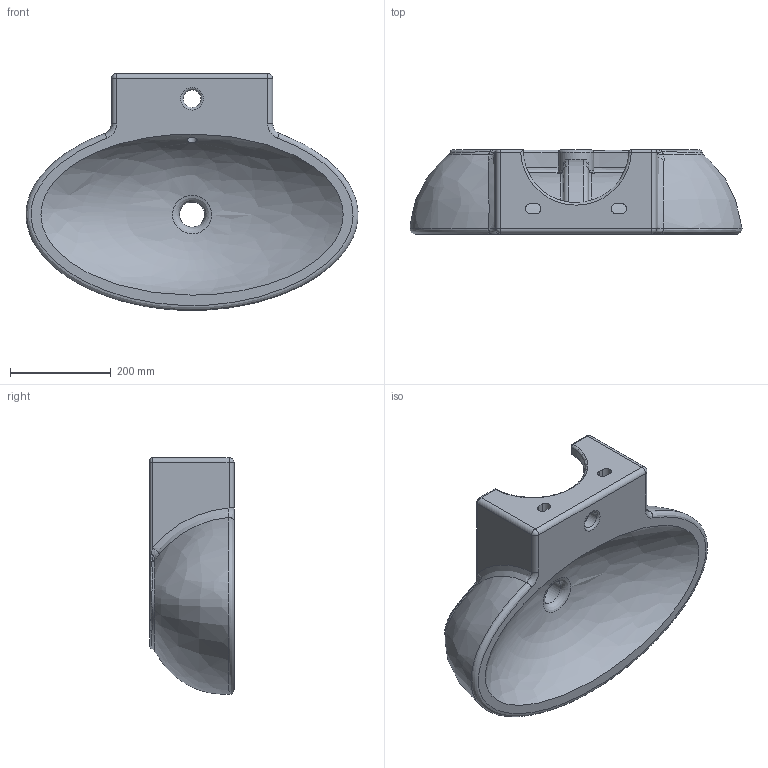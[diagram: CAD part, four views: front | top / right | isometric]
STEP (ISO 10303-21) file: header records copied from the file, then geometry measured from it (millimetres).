
FILE_DESCRIPTION( ( 'Unknown' ), '1' );
FILE_NAME( 'C:/Documents and Settings/s.pallini/Desktop/Scarabeo 17-6/Planet ovale grande sospeso.stp', 'Unknown', ( 'Unknown' ), ( 'Unknown' ), 'PSStep 11.0', 'Unknown', ' ' );
FILE_SCHEMA( ( 'AUTOMOTIVE_DESIGN { 1 0 10303 214 1 1 1 1 }' ) );
Length unit declared in the file: millimetre
Products named in the file (1): 1
Bounding box: 659.24 x 167 x 470.33 mm (x, y, z)
Volume: 16362340.4 mm3; surface area: 821544.3 mm2
Topology: 1 solids, 1 shells, 113 faces, 274 edges, 156 vertices
Faces by surface type: cylinder 36, bspline 34, plane 21, torus 13, sphere 8, extrusion 1
Full cylindrical faces by diameter (mm): 20 x1, 35 x1, 50 x1, 70 x1
Entity records: 30922 total; most frequent: CARTESIAN_POINT 27714, ORIENTED_EDGE 510, DIRECTION 416, EDGE_CURVE 255, AXIS2_PLACEMENT_3D 172, VERTEX_POINT 153, EDGE_LOOP 130, FACE_OUTER_BOUND 121
